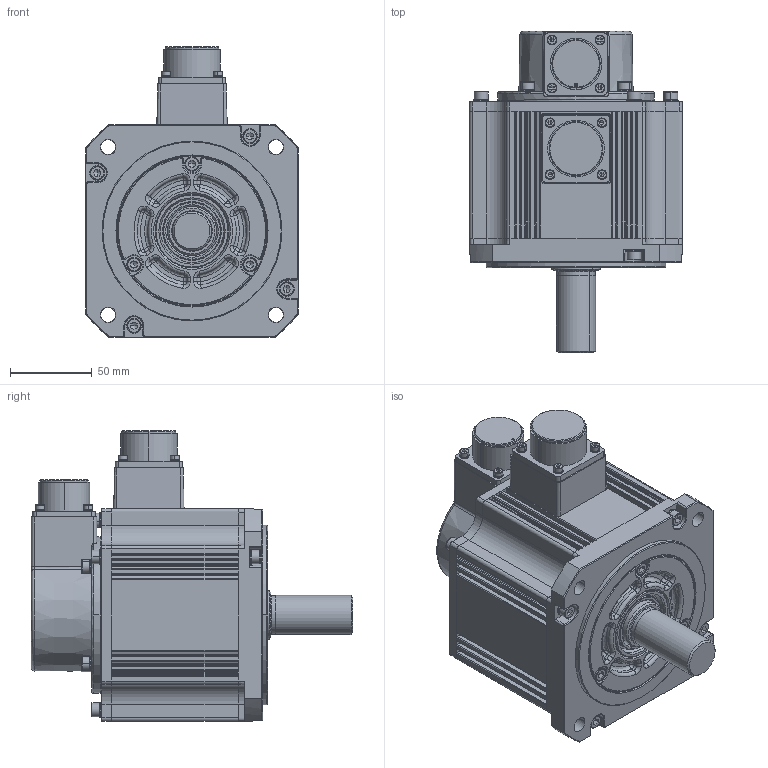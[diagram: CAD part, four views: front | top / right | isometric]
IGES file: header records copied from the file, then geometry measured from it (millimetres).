
Global section: file name: 7HNo Iges File Name specified; native system: AutoDesk Inventor R12.0; preprocessor: AutoDesk Inventor Iges Exporter R12.0; author: No Author specified; organization: No Organization specified; date: 20160715.170555; units: millimetre
Bounding box: 130 x 196.5 x 177.7 mm (x, y, z)
Volume: 1821960.8 mm3; surface area: 136828.4 mm2
Topology: 1 solids, 1 shells, 1167 faces, 2966 edges, 1832 vertices
Faces by surface type: plane 454, cylinder 250, revolution 220, torus 182, cone 34, bspline 19, sphere 8
